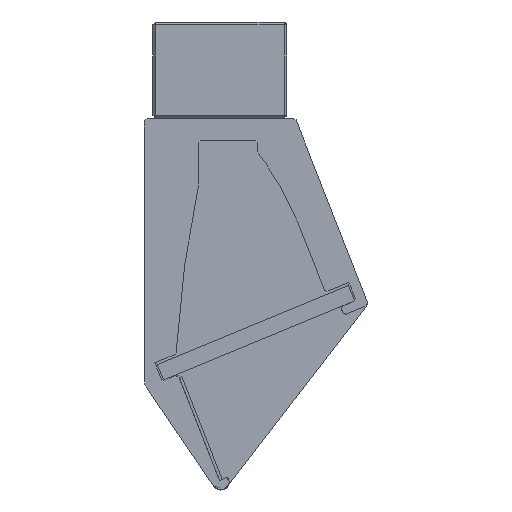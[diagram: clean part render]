
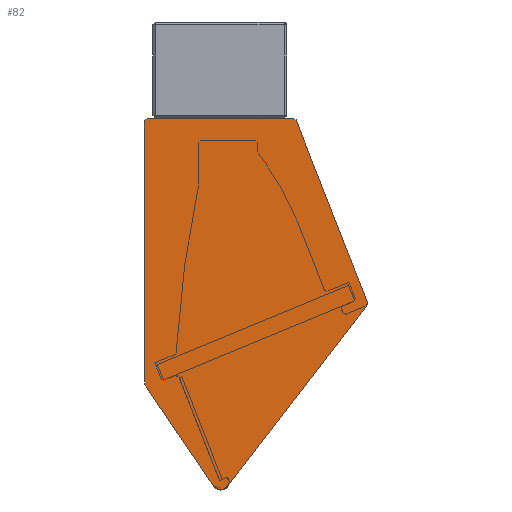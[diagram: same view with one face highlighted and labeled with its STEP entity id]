
A CAD part, front view. The second image highlights one B-rep face of the part: STEP entity #82.
In plain terms, the highlighted planar face has unit normal (0, -1, 0).
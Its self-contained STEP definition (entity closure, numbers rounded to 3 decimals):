
#82=ADVANCED_FACE('',(#206),#1810,.T.);
#206=FACE_OUTER_BOUND('',#331,.T.);
#331=EDGE_LOOP('',(#602,#603,#604,#605,#606,#607,#608,#609,#610,#611));
#602=ORIENTED_EDGE('',*,*,#1048,.T.);
#603=ORIENTED_EDGE('',*,*,#1052,.T.);
#604=ORIENTED_EDGE('',*,*,#1055,.T.);
#605=ORIENTED_EDGE('',*,*,#1058,.T.);
#606=ORIENTED_EDGE('',*,*,#1061,.T.);
#607=ORIENTED_EDGE('',*,*,#1064,.T.);
#608=ORIENTED_EDGE('',*,*,#1067,.T.);
#609=ORIENTED_EDGE('',*,*,#1070,.T.);
#610=ORIENTED_EDGE('',*,*,#1073,.T.);
#611=ORIENTED_EDGE('',*,*,#1075,.T.);
#1048=EDGE_CURVE('',#1586,#1585,#1489,.T.);
#1052=EDGE_CURVE('',#1585,#1588,#1283,.T.);
#1055=EDGE_CURVE('',#1588,#1590,#1493,.T.);
#1058=EDGE_CURVE('',#1590,#1592,#1286,.T.);
#1061=EDGE_CURVE('',#1592,#1594,#1496,.T.);
#1064=EDGE_CURVE('',#1594,#1596,#1289,.T.);
#1067=EDGE_CURVE('',#1596,#1598,#1499,.T.);
#1070=EDGE_CURVE('',#1598,#1600,#1292,.T.);
#1073=EDGE_CURVE('',#1600,#1602,#1502,.T.);
#1075=EDGE_CURVE('',#1602,#1586,#1294,.T.);
#1283=(
BOUNDED_CURVE()
B_SPLINE_CURVE(2,(#2605,#2606,#2607),.UNSPECIFIED.,.F.,.F.)
B_SPLINE_CURVE_WITH_KNOTS((3,3),(41.03,41.545),
 .UNSPECIFIED.)
CURVE()
GEOMETRIC_REPRESENTATION_ITEM()
RATIONAL_B_SPLINE_CURVE((1.,0.87,1.))
REPRESENTATION_ITEM('')
);
#1286=(
BOUNDED_CURVE()
B_SPLINE_CURVE(2,(#2619,#2620,#2621),.UNSPECIFIED.,.F.,.F.)
B_SPLINE_CURVE_WITH_KNOTS((3,3),(76.585,77.183),
 .UNSPECIFIED.)
CURVE()
GEOMETRIC_REPRESENTATION_ITEM()
RATIONAL_B_SPLINE_CURVE((1.,0.826,1.))
REPRESENTATION_ITEM('')
);
#1289=(
BOUNDED_CURVE()
B_SPLINE_CURVE(2,(#2633,#2634,#2635),.UNSPECIFIED.,.F.,.F.)
B_SPLINE_CURVE_WITH_KNOTS((3,3),(103.343,104.128),
 .UNSPECIFIED.)
CURVE()
GEOMETRIC_REPRESENTATION_ITEM()
RATIONAL_B_SPLINE_CURVE((1.,0.707,1.))
REPRESENTATION_ITEM('')
);
#1292=(
BOUNDED_CURVE()
B_SPLINE_CURVE(2,(#2647,#2648,#2649),.UNSPECIFIED.,.F.,.F.)
B_SPLINE_CURVE_WITH_KNOTS((3,3),(150.632,151.826),
 .UNSPECIFIED.)
CURVE()
GEOMETRIC_REPRESENTATION_ITEM()
RATIONAL_B_SPLINE_CURVE((1.,0.956,1.))
REPRESENTATION_ITEM('')
);
#1294=(
BOUNDED_CURVE()
B_SPLINE_CURVE(2,(#2661,#2662,#2663,#2664,#2665),.UNSPECIFIED.,.F.,.F.)
B_SPLINE_CURVE_WITH_KNOTS((3,2,3),(173.273,174.69,176.107),
 .UNSPECIFIED.)
CURVE()
GEOMETRIC_REPRESENTATION_ITEM()
RATIONAL_B_SPLINE_CURVE((1.,0.891,1.,0.891,1.))
REPRESENTATION_ITEM('')
);
#1489=B_SPLINE_CURVE_WITH_KNOTS('',1,(#2596,#2597),.UNSPECIFIED.,.F.,.F.,
(2,2),(0.,41.03),.UNSPECIFIED.);
#1493=B_SPLINE_CURVE_WITH_KNOTS('',1,(#2612,#2613),.UNSPECIFIED.,.F.,.F.,
(2,2),(41.545,76.585),.UNSPECIFIED.);
#1496=B_SPLINE_CURVE_WITH_KNOTS('',1,(#2626,#2627),.UNSPECIFIED.,.F.,.F.,
(2,2),(77.183,103.343),.UNSPECIFIED.);
#1499=B_SPLINE_CURVE_WITH_KNOTS('',1,(#2640,#2641),.UNSPECIFIED.,.F.,.F.,
(2,2),(104.128,150.632),.UNSPECIFIED.);
#1502=B_SPLINE_CURVE_WITH_KNOTS('',1,(#2654,#2655),.UNSPECIFIED.,.F.,.F.,
(2,2),(151.826,173.273),.UNSPECIFIED.);
#1585=VERTEX_POINT('',#2574);
#1586=VERTEX_POINT('',#2575);
#1588=VERTEX_POINT('',#2577);
#1590=VERTEX_POINT('',#2579);
#1592=VERTEX_POINT('',#2581);
#1594=VERTEX_POINT('',#2583);
#1596=VERTEX_POINT('',#2585);
#1598=VERTEX_POINT('',#2587);
#1600=VERTEX_POINT('',#2589);
#1602=VERTEX_POINT('',#2591);
#1810=PLANE('',#1969);
#1969=AXIS2_PLACEMENT_3D('',#2571,#2075,$);
#2075=DIRECTION('',(0.,-1.,0.));
#2571=CARTESIAN_POINT('',(-22.649,-608.5,-70.842));
#2574=CARTESIAN_POINT('',(22.198,-608.5,-29.425));
#2575=CARTESIAN_POINT('',(-2.826,-608.5,-61.941));
#2577=CARTESIAN_POINT('',(22.267,-608.5,-28.937));
#2579=CARTESIAN_POINT('',(9.47,-608.5,3.683));
#2581=CARTESIAN_POINT('',(9.005,-608.5,4.));
#2583=CARTESIAN_POINT('',(-17.154,-608.5,4.));
#2585=CARTESIAN_POINT('',(-17.654,-608.5,3.5));
#2587=CARTESIAN_POINT('',(-17.654,-608.5,-43.004));
#2589=CARTESIAN_POINT('',(-17.308,-608.5,-44.128));
#2591=CARTESIAN_POINT('',(-5.255,-608.5,-61.869));
#2596=CARTESIAN_POINT('',(-2.826,-608.5,-61.941));
#2597=CARTESIAN_POINT('',(22.198,-608.5,-29.425));
#2605=CARTESIAN_POINT('',(22.198,-608.5,-29.425));
#2606=CARTESIAN_POINT('',(22.37,-608.5,-29.201));
#2607=CARTESIAN_POINT('',(22.267,-608.5,-28.937));
#2612=CARTESIAN_POINT('',(22.267,-608.5,-28.937));
#2613=CARTESIAN_POINT('',(9.47,-608.5,3.683));
#2619=CARTESIAN_POINT('',(9.47,-608.5,3.683));
#2620=CARTESIAN_POINT('',(9.346,-608.5,4.));
#2621=CARTESIAN_POINT('',(9.005,-608.5,4.));
#2626=CARTESIAN_POINT('',(9.005,-608.5,4.));
#2627=CARTESIAN_POINT('',(-17.154,-608.5,4.));
#2633=CARTESIAN_POINT('',(-17.154,-608.5,4.));
#2634=CARTESIAN_POINT('',(-17.654,-608.5,4.));
#2635=CARTESIAN_POINT('',(-17.654,-608.5,3.5));
#2640=CARTESIAN_POINT('',(-17.654,-608.5,3.5));
#2641=CARTESIAN_POINT('',(-17.654,-608.5,-43.004));
#2647=CARTESIAN_POINT('',(-17.654,-608.5,-43.004));
#2648=CARTESIAN_POINT('',(-17.654,-608.5,-43.62));
#2649=CARTESIAN_POINT('',(-17.308,-608.5,-44.128));
#2654=CARTESIAN_POINT('',(-17.308,-608.5,-44.128));
#2655=CARTESIAN_POINT('',(-5.255,-608.5,-61.869));
#2661=CARTESIAN_POINT('',(-5.255,-608.5,-61.869));
#2662=CARTESIAN_POINT('',(-4.825,-608.5,-62.503));
#2663=CARTESIAN_POINT('',(-4.059,-608.5,-62.525));
#2664=CARTESIAN_POINT('',(-3.293,-608.5,-62.548));
#2665=CARTESIAN_POINT('',(-2.826,-608.5,-61.941));
